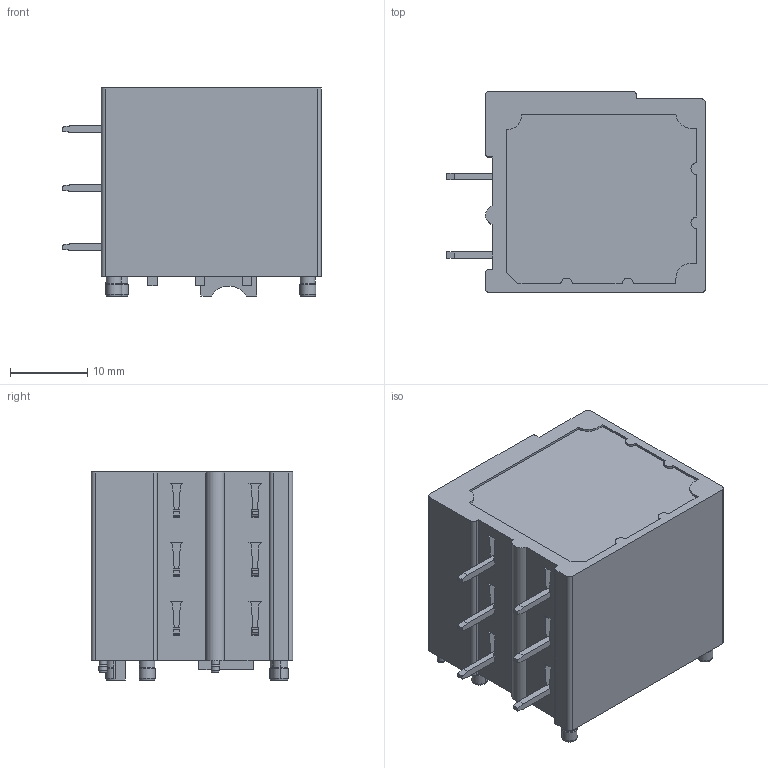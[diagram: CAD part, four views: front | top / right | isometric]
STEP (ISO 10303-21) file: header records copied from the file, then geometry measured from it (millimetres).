
FILE_DESCRIPTION((''),'2;1');
FILE_NAME('KH0215X10000G_SW0001','2019-06-10T',('zhenbing.lai'),(''),'CREO PARAMETRIC BY PTC INC, 2016260','CREO PARAMETRIC BY PTC INC, 2016260','');
FILE_SCHEMA(('CONFIG_CONTROL_DESIGN'));
Length unit declared in the file: millimetre
Products named in the file (1): KH0215X10000G_SW0001
Bounding box: 33.4 x 26 x 26.86 mm (x, y, z)
Volume: 16665.8 mm3; surface area: 4989.8 mm2
Topology: 1 solids, 1 shells, 309 faces, 766 edges, 496 vertices
Faces by surface type: plane 219, cylinder 66, cone 24
Entity records: 9133 total; most frequent: CARTESIAN_POINT 1646, ORIENTED_EDGE 1532, DIRECTION 1508, EDGE_CURVE 766, VECTOR 618, LINE 618, VERTEX_POINT 496, AXIS2_PLACEMENT_3D 445
